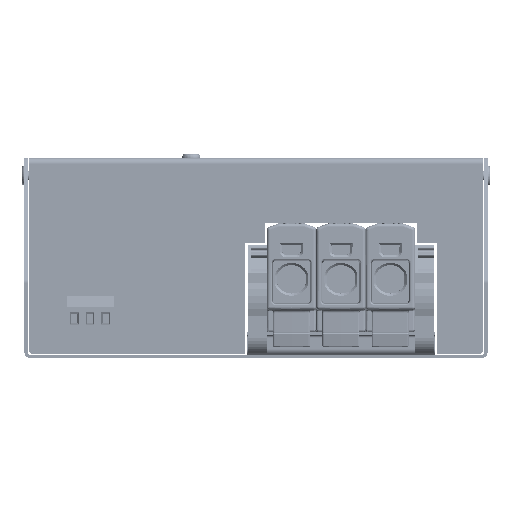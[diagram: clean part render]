
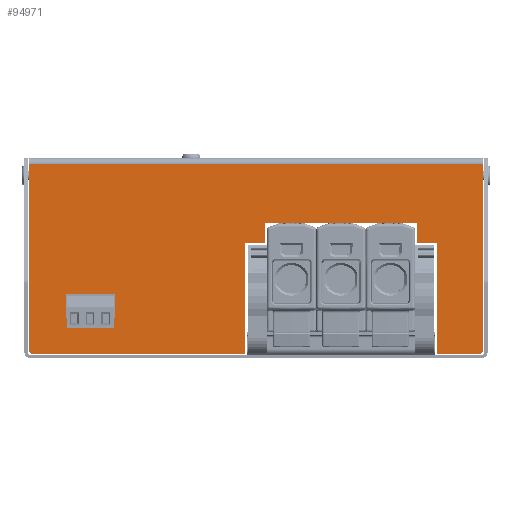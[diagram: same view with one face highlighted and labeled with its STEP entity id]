
A CAD part, left-side view. The second image highlights one B-rep face of the part: STEP entity #94971.
In plain terms, the highlighted planar face has unit normal (-1, 0, 0).
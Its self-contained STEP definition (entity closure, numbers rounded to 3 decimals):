
#7698=FACE_BOUND('',#18419,.T.);
#8009=PLANE('',#101124);
#11902=FACE_OUTER_BOUND('',#18418,.T.);
#18418=EDGE_LOOP('',(#69096,#69097,#69098,#69099,#69100,#69101,#69102,#69103,
#69104,#69105,#69106,#69107,#69108,#69109));
#18419=EDGE_LOOP('',(#69110,#69111,#69112,#69113));
#23277=LINE('',#135164,#32834);
#23280=LINE('',#135170,#32837);
#23283=LINE('',#135176,#32840);
#23286=LINE('',#135180,#32843);
#23466=LINE('',#136241,#33023);
#23480=LINE('',#136274,#33037);
#23483=LINE('',#136280,#33040);
#23486=LINE('',#136285,#33043);
#23488=LINE('',#136290,#33045);
#23491=LINE('',#136295,#33048);
#23492=LINE('',#136297,#33049);
#23507=LINE('',#136327,#33064);
#23508=LINE('',#136329,#33065);
#23510=LINE('',#136333,#33067);
#23511=LINE('',#136335,#33068);
#23518=LINE('',#136356,#33075);
#32834=VECTOR('',#109785,15.9);
#32837=VECTOR('',#109790,7.6);
#32840=VECTOR('',#109795,15.9);
#32843=VECTOR('',#109800,7.6);
#33023=VECTOR('',#110958,60.5);
#33037=VECTOR('',#110982,60.5);
#33040=VECTOR('',#110987,6.5);
#33043=VECTOR('',#110992,6.5);
#33045=VECTOR('',#110996,6.5);
#33048=VECTOR('',#111001,6.5);
#33049=VECTOR('',#111004,49.);
#33064=VECTOR('',#111035,36.);
#33065=VECTOR('',#111038,14.);
#33067=VECTOR('',#111042,69.);
#33068=VECTOR('',#111045,36.);
#33075=VECTOR('',#111076,147.);
#43242=CIRCLE('',#101083,1.);
#43244=CIRCLE('',#101088,1.);
#45201=VERTEX_POINT('',#135161);
#45202=VERTEX_POINT('',#135163);
#45204=VERTEX_POINT('',#135169);
#45206=VERTEX_POINT('',#135175);
#45595=VERTEX_POINT('',#136231);
#45596=VERTEX_POINT('',#136233);
#45598=VERTEX_POINT('',#136239);
#45610=VERTEX_POINT('',#136267);
#45611=VERTEX_POINT('',#136269);
#45612=VERTEX_POINT('',#136273);
#45613=VERTEX_POINT('',#136277);
#45614=VERTEX_POINT('',#136279);
#45615=VERTEX_POINT('',#136283);
#45616=VERTEX_POINT('',#136287);
#45617=VERTEX_POINT('',#136289);
#45618=VERTEX_POINT('',#136293);
#45625=VERTEX_POINT('',#136325);
#45626=VERTEX_POINT('',#136331);
#54011=EDGE_CURVE('',#45202,#45201,#23277,.T.);
#54014=EDGE_CURVE('',#45204,#45202,#23280,.T.);
#54017=EDGE_CURVE('',#45206,#45204,#23283,.T.);
#54020=EDGE_CURVE('',#45201,#45206,#23286,.T.);
#54480=EDGE_CURVE('',#45595,#45596,#43242,.T.);
#54484=EDGE_CURVE('',#45598,#45595,#23466,.T.);
#54498=EDGE_CURVE('',#45610,#45611,#43244,.T.);
#54500=EDGE_CURVE('',#45611,#45612,#23480,.T.);
#54503=EDGE_CURVE('',#45614,#45613,#23483,.T.);
#54506=EDGE_CURVE('',#45613,#45615,#23486,.T.);
#54508=EDGE_CURVE('',#45617,#45616,#23488,.T.);
#54511=EDGE_CURVE('',#45616,#45618,#23491,.T.);
#54512=EDGE_CURVE('',#45614,#45618,#23492,.T.);
#54527=EDGE_CURVE('',#45615,#45625,#23507,.T.);
#54528=EDGE_CURVE('',#45625,#45596,#23508,.T.);
#54530=EDGE_CURVE('',#45610,#45626,#23510,.T.);
#54531=EDGE_CURVE('',#45626,#45617,#23511,.T.);
#54542=EDGE_CURVE('',#45598,#45612,#23518,.T.);
#69096=ORIENTED_EDGE('',*,*,#54480,.F.);
#69097=ORIENTED_EDGE('',*,*,#54484,.F.);
#69098=ORIENTED_EDGE('',*,*,#54542,.T.);
#69099=ORIENTED_EDGE('',*,*,#54500,.F.);
#69100=ORIENTED_EDGE('',*,*,#54498,.F.);
#69101=ORIENTED_EDGE('',*,*,#54530,.T.);
#69102=ORIENTED_EDGE('',*,*,#54531,.T.);
#69103=ORIENTED_EDGE('',*,*,#54508,.T.);
#69104=ORIENTED_EDGE('',*,*,#54511,.T.);
#69105=ORIENTED_EDGE('',*,*,#54512,.F.);
#69106=ORIENTED_EDGE('',*,*,#54503,.T.);
#69107=ORIENTED_EDGE('',*,*,#54506,.T.);
#69108=ORIENTED_EDGE('',*,*,#54527,.T.);
#69109=ORIENTED_EDGE('',*,*,#54528,.T.);
#69110=ORIENTED_EDGE('',*,*,#54011,.T.);
#69111=ORIENTED_EDGE('',*,*,#54020,.T.);
#69112=ORIENTED_EDGE('',*,*,#54017,.T.);
#69113=ORIENTED_EDGE('',*,*,#54014,.T.);
#94971=ADVANCED_FACE('',(#11902,#7698),#8009,.T.);
#101083=AXIS2_PLACEMENT_3D('',#136234,#110951,#110952);
#101088=AXIS2_PLACEMENT_3D('',#136270,#110977,#110978);
#101124=AXIS2_PLACEMENT_3D('',#136363,#111089,#111090);
#109785=DIRECTION('',(0.,-1.,0.));
#109790=DIRECTION('',(0.,0.,1.));
#109795=DIRECTION('',(0.,1.,0.));
#109800=DIRECTION('',(0.,0.,-1.));
#110951=DIRECTION('center_axis',(1.,0.,0.));
#110952=DIRECTION('ref_axis',(0.,-0.707,-0.707));
#110958=DIRECTION('',(0.,0.,-1.));
#110977=DIRECTION('center_axis',(1.,0.,0.));
#110978=DIRECTION('ref_axis',(0.,0.707,-0.707));
#110982=DIRECTION('',(0.,0.,1.));
#110987=DIRECTION('',(0.,0.,-1.));
#110992=DIRECTION('',(0.,-1.,0.));
#110996=DIRECTION('',(0.,-1.,0.));
#111001=DIRECTION('',(0.,0.,1.));
#111004=DIRECTION('',(0.,1.,0.));
#111035=DIRECTION('',(0.,0.,-1.));
#111038=DIRECTION('',(0.,-1.,0.));
#111042=DIRECTION('',(0.,-1.,0.));
#111045=DIRECTION('',(0.,0.,1.));
#111076=DIRECTION('',(0.,1.,0.));
#111089=DIRECTION('center_axis',(-1.,0.,0.));
#111090=DIRECTION('ref_axis',(0.,0.,
1.));
#135161=CARTESIAN_POINT('',(-98.,45.8,-43.3));
#135163=CARTESIAN_POINT('',(-98.,61.7,-43.3));
#135164=CARTESIAN_POINT('',(-98.,30.85,-43.3));
#135169=CARTESIAN_POINT('',(-98.,61.7,-50.9));
#135170=CARTESIAN_POINT('',(-98.,61.7,-30.135));
#135175=CARTESIAN_POINT('',(-98.,45.8,-50.9));
#135176=CARTESIAN_POINT('',(-98.,22.9,-50.9));
#135180=CARTESIAN_POINT('',(-98.,45.8,-26.335));
#136231=CARTESIAN_POINT('',(-98.,-73.5,-61.5));
#136233=CARTESIAN_POINT('',(-98.,-72.5,-62.5));
#136234=CARTESIAN_POINT('Origin',(-98.,-72.5,-61.5));
#136239=CARTESIAN_POINT('',(-98.,-73.5,-1.));
#136241=CARTESIAN_POINT('',(-98.,-73.5,-1.));
#136267=CARTESIAN_POINT('',(-98.,72.5,-62.5));
#136269=CARTESIAN_POINT('',(-98.,73.5,-61.5));
#136270=CARTESIAN_POINT('Origin',(-98.,72.5,-61.5));
#136273=CARTESIAN_POINT('',(-98.,73.5,-1.));
#136274=CARTESIAN_POINT('',(-98.,73.5,3.524));
#136277=CARTESIAN_POINT('',(-98.,-52.,-26.5));
#136279=CARTESIAN_POINT('',(-98.,-52.,-20.));
#136280=CARTESIAN_POINT('',(-98.,-52.,-20.));
#136283=CARTESIAN_POINT('',(-98.,-58.5,-26.5));
#136285=CARTESIAN_POINT('',(-98.,-52.,-26.5));
#136287=CARTESIAN_POINT('',(-98.,-3.,-26.5));
#136289=CARTESIAN_POINT('',(-98.,3.5,-26.5));
#136290=CARTESIAN_POINT('',(-98.,3.5,-26.5));
#136293=CARTESIAN_POINT('',(-98.,-3.,-20.));
#136295=CARTESIAN_POINT('',(-98.,-3.,-26.5));
#136297=CARTESIAN_POINT('',(-98.,-73.5,-20.));
#136325=CARTESIAN_POINT('',(-98.,-58.5,-62.5));
#136327=CARTESIAN_POINT('',(-98.,-58.5,-20.));
#136329=CARTESIAN_POINT('',(-98.,-58.5,-62.5));
#136331=CARTESIAN_POINT('',(-98.,3.5,-62.5));
#136333=CARTESIAN_POINT('',(-98.,73.5,-62.5));
#136335=CARTESIAN_POINT('',(-98.,3.5,-62.5));
#136356=CARTESIAN_POINT('',(-98.,0.,-1.));
#136363=CARTESIAN_POINT('Origin',(-98.,0.,-9.369));
